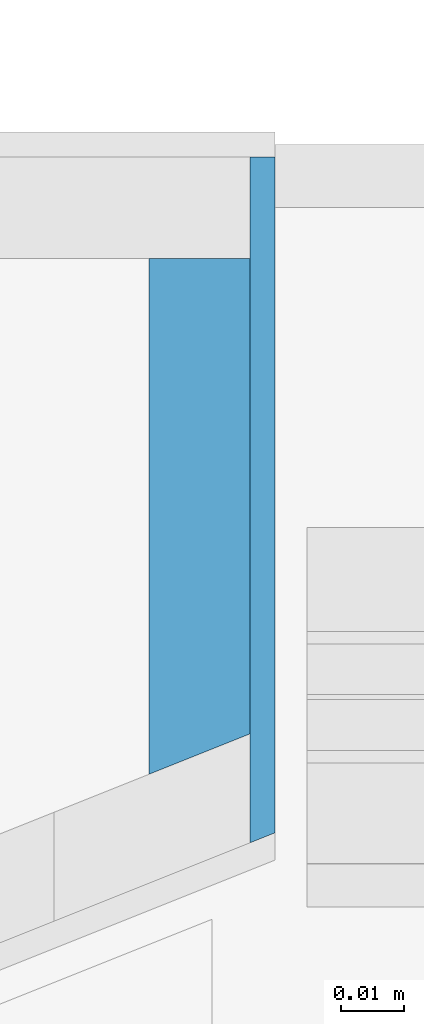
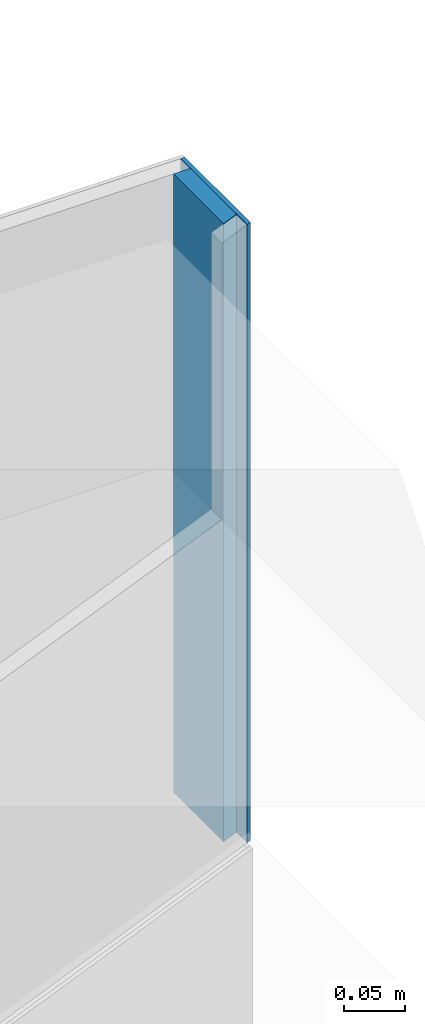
# One storey, part 17 of 57: 2 building element parts, 1 element without a shape of its own.
"""IFC2X3 building model written with IfcOpenShell, lengths in millimetres."""

from ifc_helpers import new_model, entity, si_unit, converted_unit, direction, frame, origin, place, context, subcontext, project, spatial, polyline, outline, extrude, material, type_object, element, aggregate, save


model = new_model("IFC2X3")

# Units and contexts
model_context = context("Model", 3, precision=0.01, world=origin(), true_north=direction((6.123233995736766e-17, 1.0)))
plan_context = context("Plan", 3, precision=0.01, world=origin(), true_north=direction((6.123233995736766e-17, 1.0)))
body_context = subcontext(model_context, "Body", "Model", "MODEL_VIEW")
ifc_project = project(units=[si_unit("LENGTHUNIT", "METRE", prefix="MILLI"), converted_unit("PLANEANGLEUNIT", "DEGREE", entity("IfcPlaneAngleMeasure", 0.017453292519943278), si_unit("PLANEANGLEUNIT", "RADIAN"), dimensions=[0, 0, 0, 0, 0, 0, 0]), si_unit("AREAUNIT", "SQUARE_METRE")], contexts=[model_context, plan_context])

# Site, building, storey
site_placement = place(None, origin())
site = spatial("IfcSite", under=ifc_project, at=site_placement, Name="Default", CompositionType="ELEMENT")
building_placement = place(site_placement, origin())
building = spatial("IfcBuilding", under=site, at=building_placement, CompositionType="ELEMENT")
storey_placement = place(building_placement, frame((0.0, 0.0, 12811.000000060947)))
storey = spatial("IfcBuildingStorey", under=building, at=storey_placement, Name="5K", CompositionType="ELEMENT", Elevation=12811.000000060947)

# Wall, building element parts
wall_type = type_object("IfcWallType", Name="Basic Wall:VS-komposiit", PredefinedType="STANDARD")
wall_placement = place(storey_placement, frame((13265.061891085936, 15730.397162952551, -20.0), z_axis=(0.0, 0.0, 1.0), x_axis=(0.0, 1.0, 0.0)))
wall = element("IfcWall", 1, at=wall_placement, inside=storey, type_object=wall_type, Name="Basic Wall:VS-komposiit", ObjectType="Basic Wall:VS-komposiit")
ifc_material_1 = material(Name="_K. Välisviimistlus. Alumiinium-komposiitplaat")
building_element_part_1_placement = place(wall_placement, origin())
building_element_part_1 = element("IfcBuildingElementPart", 2, at=building_element_part_1_placement, material=ifc_material_1, Name="Part", context=body_context, shape_type="SweptSolid", body=[
    extrude(outline(polyline([(-53.81565490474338, -2.0), (54.61576157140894, -2.0), (53.01554823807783, 2.0), (-53.81565490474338, 2.0), (-53.81565490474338, -2.0)])), frame((43.78377058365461, -8.0, 2420.0), z_axis=(0.0, 0.0, 1.0), x_axis=(-1.0, 0.0, 0.0)), (0.0, 0.0, 1.0), 614.9999999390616),
])
ifc_material_2 = material(Name="_K. Õhk. Roov. Fassaadikatte alusroov. Horisontaalne. 25 mm")
building_element_part_2_placement = place(wall_placement, origin())
building_element_part_2 = element("IfcBuildingElementPart", 3, at=building_element_part_2_placement, material=ifc_material_2, Name="Part", context=body_context, shape_type="SweptSolid", body=[
    extrude(outline(polyline([(-39.19949941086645, -8.0), (42.39992607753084, -8.0), (35.99907274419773, 8.0), (-39.19949941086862, 8.0), (-39.19949941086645, -8.0)])), frame((42.39992607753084, 2.0, 2420.0), z_axis=(0.0, 0.0, 1.0), x_axis=(-1.0, 0.0, 0.0)), (0.0, 0.0, 1.0), 614.9999999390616),
])
aggregate(wall, [building_element_part_1, building_element_part_2])

save(model, "model.ifc")
